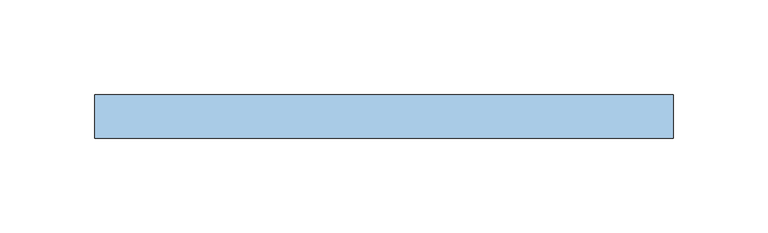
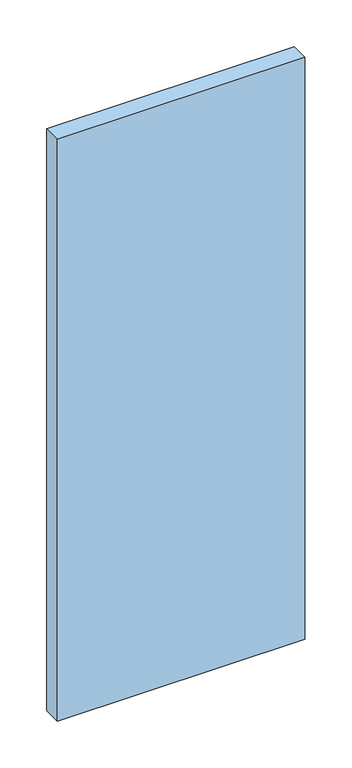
"""IFC4 building model written with IfcOpenShell, lengths in millimetres: window geometry, NLRS_30_WIN_glas-isolerend-raam_sh_gen_TOBA-JM : isolerend-raam."""

from ifc_helpers import new_model, si_unit, frame, origin, place, context, project, spatial, polyline, outline, extrude, source, transform, mapped, element, save


def window_7e491630(model_context):
    return source(origin(), model_context, "Body", "SweptSolid", [
        extrude(outline(polyline([(-153.0, 41.0), (153.0, 41.0), (153.0, 18.0), (-153.0, 18.0), (-153.0, 41.0)])), frame((0.0, 0.0, 71.0), z_axis=(0.0, 0.0, 1.0), x_axis=(1.0, 0.0, 0.0)), (0.0, 0.0, 1.0), 761.0),
    ])


if __name__ == "__main__":
    model = new_model("IFC4")
    model_context = context("Model", 3, world=origin())
    ifc_project = project(units=[si_unit("LENGTHUNIT", "METRE", prefix="MILLI")], contexts=[model_context])
    site = spatial("IfcSite", under=ifc_project)
    building = spatial("IfcBuilding", under=site)
    placement = place(None, origin())
    window_shape = window_7e491630(model_context)
    element("IfcWindow", 1, ObjectType="NLRS_30_WIN_glas-isolerend-raam_sh_gen_TOBA-JM : isolerend-raam", at=placement, inside=building, context=model_context, shape_type="MappedRepresentation", body=[
        mapped(window_shape, transform((0.0, 0.0, 0.0), x_axis=(1.0, 0.0, 0.0), y_axis=(0.0, 1.0, 0.0), z_axis=(0.0, 0.0, 1.0))),
    ])
    save(model, "model.ifc")
